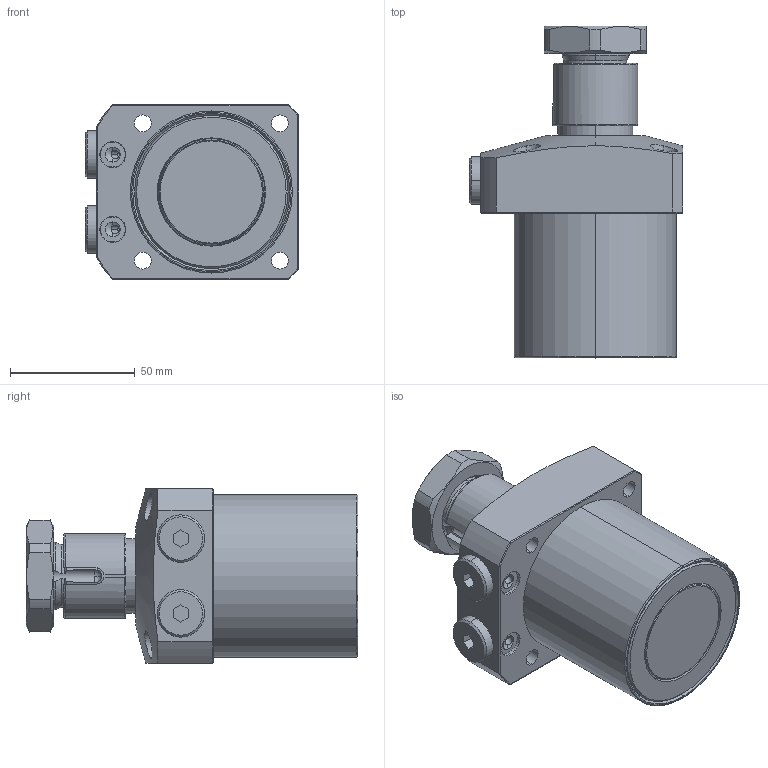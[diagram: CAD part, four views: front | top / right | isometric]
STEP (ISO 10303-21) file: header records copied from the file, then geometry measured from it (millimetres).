
FILE_DESCRIPTION (( 'STEP AP203' ), '1' );
FILE_NAME ('20500-CR.step', '2019-06-24T03:04:29', ( '微软用户' ), ( '微软中国' ), 'SwSTEP 2.0', 'SolidWorks 2014', '' );
FILE_SCHEMA (( 'CONFIG_CONTROL_DESIGN' ));
Length unit declared in the file: millimetre
Products named in the file (7): 20500-04^20500-CR; 20500-05^20500-CR; 20500-C-P-4^20500-CR; 20500-CR; 20500-01^20500-CR; 20500-02^20500-CR; 20500-03^20500-CR
Assembly tree (7 placements, depth 2):
  20500-CR
    20500-01^20500-CR
    20500-02^20500-CR
    20500-03^20500-CR
    20500-04^20500-CR
    20500-05^20500-CR
    20500-C-P-4^20500-CR  x2
Bounding box: 85.5 x 133 x 70 mm (x, y, z)
Volume: 399198 mm3; surface area: 57688.6 mm2
Topology: 7 solids, 7 shells, 222 faces, 533 edges, 337 vertices
Faces by surface type: plane 78, cylinder 75, cone 49, torus 18, sphere 2
Entity records: 7733 total; most frequent: CARTESIAN_POINT 2086, DIRECTION 1051, ORIENTED_EDGE 1006, EDGE_CURVE 503, AXIS2_PLACEMENT_3D 429, VERTEX_POINT 319, EDGE_LOOP 236, CIRCLE 210
